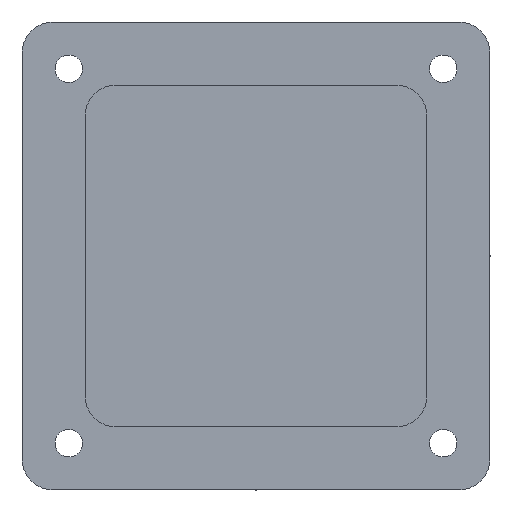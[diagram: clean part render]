
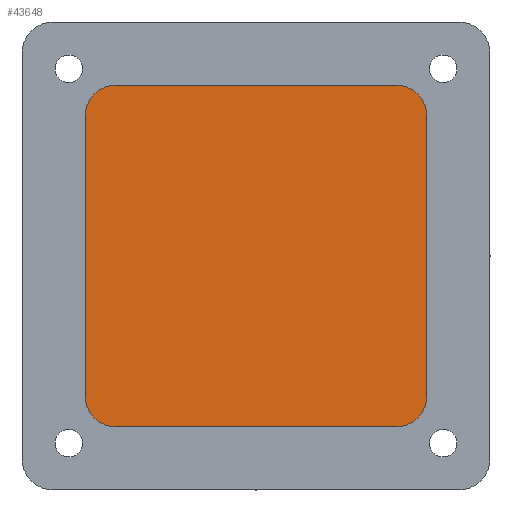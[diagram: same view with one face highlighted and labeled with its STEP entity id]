
A CAD part, front view. The second image highlights one B-rep face of the part: STEP entity #43648.
In plain terms, the highlighted planar face has unit normal (0, -1, 0).
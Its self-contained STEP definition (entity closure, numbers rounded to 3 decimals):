
#263 = EDGE_LOOP ( 'NONE', ( #31958, #61208, #25894, #59919, #43998, #54694, #16924, #19382 ) ) ;
#406 = VERTEX_POINT ( 'NONE', #3376 ) ;
#1017 = EDGE_CURVE ( 'NONE', #41873, #10804, #18795, .T. ) ;
#2360 = DIRECTION ( 'NONE',  ( 0., -1., 0. ) ) ;
#3376 = CARTESIAN_POINT ( 'NONE',  ( 44.8, -17., 54.8 ) ) ;
#5182 = CARTESIAN_POINT ( 'NONE',  ( 44.8, -17., -54.8 ) ) ;
#5571 = CIRCLE ( 'NONE', #34364, 10. ) ;
#5896 = EDGE_CURVE ( 'NONE', #10804, #54388, #28749, .T. ) ;
#6775 = VERTEX_POINT ( 'NONE', #23585 ) ;
#7278 = VERTEX_POINT ( 'NONE', #12423 ) ;
#8002 = EDGE_CURVE ( 'NONE', #42439, #6775, #39448, .T. ) ;
#9463 = CARTESIAN_POINT ( 'NONE',  ( -44.8, -17., 54.8 ) ) ;
#10445 = DIRECTION ( 'NONE',  ( -1., 0., 0. ) ) ;
#10804 = VERTEX_POINT ( 'NONE', #12943 ) ;
#11022 = AXIS2_PLACEMENT_3D ( 'NONE', #14259, #48088, #19062 ) ;
#12423 = CARTESIAN_POINT ( 'NONE',  ( 54.8, -17., 44.8 ) ) ;
#12943 = CARTESIAN_POINT ( 'NONE',  ( -54.8, -17., 44.8 ) ) ;
#12947 = AXIS2_PLACEMENT_3D ( 'NONE', #41874, #13000, #46761 ) ;
#13000 = DIRECTION ( 'NONE',  ( 0., -1., 0. ) ) ;
#13851 = CARTESIAN_POINT ( 'NONE',  ( 44.8, -17., -44.8 ) ) ;
#14259 = CARTESIAN_POINT ( 'NONE',  ( -44.8, -17., 44.8 ) ) ;
#14917 = VECTOR ( 'NONE', #10445, 1000. ) ;
#16924 = ORIENTED_EDGE ( 'NONE', *, *, #8002, .T. ) ;
#18655 = DIRECTION ( 'NONE',  ( 0., 0., 1. ) ) ;
#18795 = CIRCLE ( 'NONE', #11022, 10. ) ;
#18926 = CARTESIAN_POINT ( 'NONE',  ( 44.8, -17., 44.8 ) ) ;
#19062 = DIRECTION ( 'NONE',  ( 0., 0., -1. ) ) ;
#19382 = ORIENTED_EDGE ( 'NONE', *, *, #33187, .T. ) ;
#23585 = CARTESIAN_POINT ( 'NONE',  ( 54.8, -17., -44.8 ) ) ;
#23739 = DIRECTION ( 'NONE',  ( 0., 0., -1. ) ) ;
#24007 = LINE ( 'NONE', #24668, #48320 ) ;
#24668 = CARTESIAN_POINT ( 'NONE',  ( -44.8, -17., -54.8 ) ) ;
#25894 = ORIENTED_EDGE ( 'NONE', *, *, #1017, .T. ) ;
#25982 = AXIS2_PLACEMENT_3D ( 'NONE', #13851, #47656, #18655 ) ;
#28050 = VECTOR ( 'NONE', #28403, 1000. ) ;
#28403 = DIRECTION ( 'NONE',  ( 0., 0., -1. ) ) ;
#28641 = DIRECTION ( 'NONE',  ( 0., 0., 1. ) ) ;
#28749 = LINE ( 'NONE', #51837, #28050 ) ;
#29724 = AXIS2_PLACEMENT_3D ( 'NONE', #18926, #52902, #23739 ) ;
#30562 = CARTESIAN_POINT ( 'NONE',  ( 44.8, -17., 54.8 ) ) ;
#31114 = CARTESIAN_POINT ( 'NONE',  ( -44.8, -17., -44.8 ) ) ;
#31958 = ORIENTED_EDGE ( 'NONE', *, *, #50003, .T. ) ;
#32079 = VECTOR ( 'NONE', #28641, 1000. ) ;
#33187 = EDGE_CURVE ( 'NONE', #6775, #7278, #58089, .T. ) ;
#34364 = AXIS2_PLACEMENT_3D ( 'NONE', #31114, #2360, #35972 ) ;
#35972 = DIRECTION ( 'NONE',  ( 0., 0., -1. ) ) ;
#38866 = EDGE_CURVE ( 'NONE', #406, #41873, #52076, .T. ) ;
#39242 = DIRECTION ( 'NONE',  ( 1., 0., 0. ) ) ;
#39448 = CIRCLE ( 'NONE', #25982, 10. ) ;
#41670 = CARTESIAN_POINT ( 'NONE',  ( -44.8, -17., -54.8 ) ) ;
#41873 = VERTEX_POINT ( 'NONE', #9463 ) ;
#41874 = CARTESIAN_POINT ( 'NONE',  ( 44.8, -17., 44.8 ) ) ;
#42439 = VERTEX_POINT ( 'NONE', #5182 ) ;
#43648 = ADVANCED_FACE ( 'NONE', ( #53383 ), #51506, .T. ) ;
#43998 = ORIENTED_EDGE ( 'NONE', *, *, #52775, .T. ) ;
#46761 = DIRECTION ( 'NONE',  ( 0., 0., -1. ) ) ;
#47656 = DIRECTION ( 'NONE',  ( 0., -1., 0. ) ) ;
#48088 = DIRECTION ( 'NONE',  ( 0., -1., 0. ) ) ;
#48253 = CIRCLE ( 'NONE', #29724, 10. ) ;
#48320 = VECTOR ( 'NONE', #39242, 1000. ) ;
#49754 = EDGE_CURVE ( 'NONE', #60802, #42439, #24007, .T. ) ;
#50003 = EDGE_CURVE ( 'NONE', #7278, #406, #48253, .T. ) ;
#50398 = CARTESIAN_POINT ( 'NONE',  ( -54.8, -17., -44.8 ) ) ;
#51506 = PLANE ( 'NONE',  #12947 ) ;
#51837 = CARTESIAN_POINT ( 'NONE',  ( -54.8, -17., 44.8 ) ) ;
#52076 = LINE ( 'NONE', #30562, #14917 ) ;
#52523 = CARTESIAN_POINT ( 'NONE',  ( 54.8, -17., -44.8 ) ) ;
#52775 = EDGE_CURVE ( 'NONE', #54388, #60802, #5571, .T. ) ;
#52902 = DIRECTION ( 'NONE',  ( 0., -1., 0. ) ) ;
#53383 = FACE_OUTER_BOUND ( 'NONE', #263, .T. ) ;
#54388 = VERTEX_POINT ( 'NONE', #50398 ) ;
#54694 = ORIENTED_EDGE ( 'NONE', *, *, #49754, .T. ) ;
#58089 = LINE ( 'NONE', #52523, #32079 ) ;
#59919 = ORIENTED_EDGE ( 'NONE', *, *, #5896, .T. ) ;
#60802 = VERTEX_POINT ( 'NONE', #41670 ) ;
#61208 = ORIENTED_EDGE ( 'NONE', *, *, #38866, .T. ) ;
